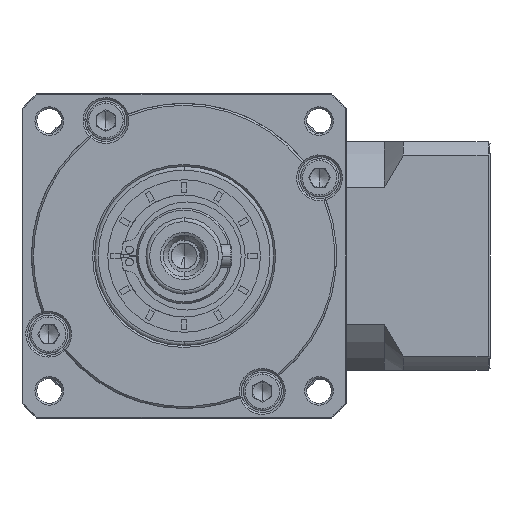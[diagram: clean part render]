
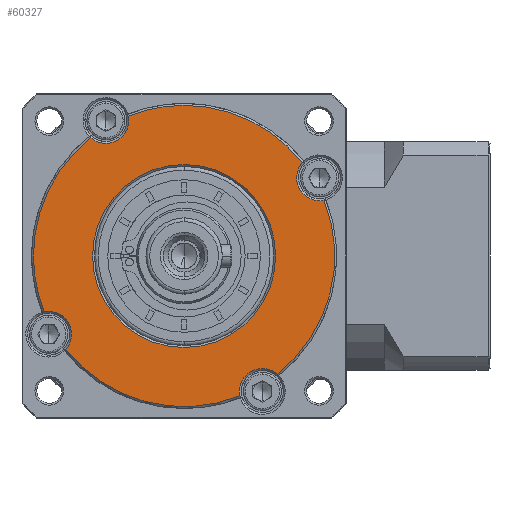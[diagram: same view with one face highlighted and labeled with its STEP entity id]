
A CAD part, left-side view. The second image highlights one B-rep face of the part: STEP entity #60327.
In plain terms, the highlighted planar face has unit normal (-1, 0, 0).
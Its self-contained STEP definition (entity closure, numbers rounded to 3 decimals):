
#143 = CARTESIAN_POINT ( 'NONE',  ( -85.36, 33.945, -122.89 ) ) ;
#965 = EDGE_CURVE ( 'NONE', #98661, #154533, #125995, .T. ) ;
#2797 = DIRECTION ( 'NONE',  ( 0., -1., 0. ) ) ;
#3060 = CIRCLE ( 'NONE', #39229, 6. ) ;
#3086 = DIRECTION ( 'NONE',  ( 0., 1., 0. ) ) ;
#3589 = DIRECTION ( 'NONE',  ( 0., 0., -1. ) ) ;
#6413 = CIRCLE ( 'NONE', #69718, 6. ) ;
#6884 = ORIENTED_EDGE ( 'NONE', *, *, #28684, .F. ) ;
#7111 = EDGE_CURVE ( 'NONE', #108349, #171684, #170310, .T. ) ;
#7172 = DIRECTION ( 'NONE',  ( 1., 0., 0. ) ) ;
#7188 = DIRECTION ( 'NONE',  ( 0., -1., 0. ) ) ;
#10012 = CARTESIAN_POINT ( 'NONE',  ( -85.36, 31.14, -137.508 ) ) ;
#16194 = CARTESIAN_POINT ( 'NONE',  ( -85.36, -41.062, -108.39 ) ) ;
#16691 = CIRCLE ( 'NONE', #72952, 6. ) ;
#22910 = CARTESIAN_POINT ( 'NONE',  ( -85.36, 29.952, -143.39 ) ) ;
#23169 = DIRECTION ( 'NONE',  ( 1., 0., 0. ) ) ;
#23332 = CIRCLE ( 'NONE', #107205, 39.5 ) ;
#25327 = EDGE_CURVE ( 'NONE', #74101, #129620, #172871, .T. ) ;
#26291 = CARTESIAN_POINT ( 'NONE',  ( -85.36, -41.062, -102.39 ) ) ;
#26826 = DIRECTION ( 'NONE',  ( 1., 0., 0. ) ) ;
#27199 = EDGE_CURVE ( 'NONE', #77246, #91178, #117964, .T. ) ;
#28684 = EDGE_CURVE ( 'NONE', #169901, #114938, #144117, .T. ) ;
#29023 = AXIS2_PLACEMENT_3D ( 'NONE', #26291, #119861, #39733 ) ;
#30211 = AXIS2_PLACEMENT_3D ( 'NONE', #162881, #82936, #2797 ) ;
#31896 = EDGE_CURVE ( 'NONE', #165293, #114938, #3060, .T. ) ;
#33157 = CARTESIAN_POINT ( 'NONE',  ( -85.36, -5.555, -122.89 ) ) ;
#33158 = EDGE_CURVE ( 'NONE', #154533, #51053, #6413, .T. ) ;
#33488 = ORIENTED_EDGE ( 'NONE', *, *, #119705, .F. ) ;
#36434 = DIRECTION ( 'NONE',  ( 0., 0., -1. ) ) ;
#36468 = AXIS2_PLACEMENT_3D ( 'NONE', #163167, #83246, #3086 ) ;
#36711 = CARTESIAN_POINT ( 'NONE',  ( -85.36, 14.945, -87.383 ) ) ;
#37875 = DIRECTION ( 'NONE',  ( 1., 0., 0. ) ) ;
#39229 = AXIS2_PLACEMENT_3D ( 'NONE', #163673, #83759, #3589 ) ;
#39339 = CARTESIAN_POINT ( 'NONE',  ( -85.36, -20.174, -159.585 ) ) ;
#39733 = DIRECTION ( 'NONE',  ( 0., 0., -1. ) ) ;
#41282 = VERTEX_POINT ( 'NONE', #39339 ) ;
#41883 = CIRCLE ( 'NONE', #30211, 24. ) ;
#42533 = CARTESIAN_POINT ( 'NONE',  ( -85.36, -29.555, -122.89 ) ) ;
#44127 = CARTESIAN_POINT ( 'NONE',  ( -85.36, 18.915, -91.882 ) ) ;
#44203 = FACE_OUTER_BOUND ( 'NONE', #102451, .T. ) ;
#45286 = CARTESIAN_POINT ( 'NONE',  ( -85.36, -26.055, -158.397 ) ) ;
#46582 = DIRECTION ( 'NONE',  ( 0., 1., 0. ) ) ;
#47852 = ORIENTED_EDGE ( 'NONE', *, *, #31896, .T. ) ;
#50204 = DIRECTION ( 'NONE',  ( 0., 0., -1. ) ) ;
#51053 = VERTEX_POINT ( 'NONE', #71967 ) ;
#55129 = AXIS2_PLACEMENT_3D ( 'NONE', #22910, #116500, #36434 ) ;
#56350 = CARTESIAN_POINT ( 'NONE',  ( -85.36, 14.945, -93.383 ) ) ;
#56401 = AXIS2_PLACEMENT_3D ( 'NONE', #68853, #162231, #82260 ) ;
#57676 = ORIENTED_EDGE ( 'NONE', *, *, #33158, .T. ) ;
#58783 = DIRECTION ( 'NONE',  ( 0., 0., -1. ) ) ;
#60327 = ADVANCED_FACE ( 'NONE', ( #44203, #146689 ), #95112, .T. ) ;
#61532 = AXIS2_PLACEMENT_3D ( 'NONE', #106883, #26826, #120376 ) ;
#64072 = CARTESIAN_POINT ( 'NONE',  ( -85.36, -42.25, -108.271 ) ) ;
#64786 = CARTESIAN_POINT ( 'NONE',  ( -85.36, 9.064, -86.194 ) ) ;
#65293 = EDGE_CURVE ( 'NONE', #41282, #156393, #113677, .T. ) ;
#68853 = CARTESIAN_POINT ( 'NONE',  ( -85.36, -5.555, -122.89 ) ) ;
#68905 = EDGE_CURVE ( 'NONE', #98661, #156393, #159468, .T. ) ;
#69718 = AXIS2_PLACEMENT_3D ( 'NONE', #87410, #7172, #100783 ) ;
#71398 = CARTESIAN_POINT ( 'NONE',  ( -85.36, -5.555, -122.89 ) ) ;
#71967 = CARTESIAN_POINT ( 'NONE',  ( -85.36, -36.563, -98.42 ) ) ;
#72952 = AXIS2_PLACEMENT_3D ( 'NONE', #36711, #130191, #50204 ) ;
#73541 = ORIENTED_EDGE ( 'NONE', *, *, #68905, .F. ) ;
#74101 = VERTEX_POINT ( 'NONE', #64786 ) ;
#76101 = AXIS2_PLACEMENT_3D ( 'NONE', #167350, #87434, #7188 ) ;
#77246 = VERTEX_POINT ( 'NONE', #10012 ) ;
#78243 = ORIENTED_EDGE ( 'NONE', *, *, #128346, .T. ) ;
#82260 = DIRECTION ( 'NONE',  ( 0., 0., -1. ) ) ;
#82936 = DIRECTION ( 'NONE',  ( 1., 0., 0. ) ) ;
#83246 = DIRECTION ( 'NONE',  ( 1., 0., 0. ) ) ;
#83759 = DIRECTION ( 'NONE',  ( 1., 0., 0. ) ) ;
#84861 = DIRECTION ( 'NONE',  ( 0., 0., 1. ) ) ;
#87410 = CARTESIAN_POINT ( 'NONE',  ( -85.36, -41.062, -102.39 ) ) ;
#87434 = DIRECTION ( 'NONE',  ( 1., 0., 0. ) ) ;
#91178 = VERTEX_POINT ( 'NONE', #93764 ) ;
#91595 = CARTESIAN_POINT ( 'NONE',  ( -85.36, -5.555, -83.39 ) ) ;
#92374 = AXIS2_PLACEMENT_3D ( 'NONE', #33157, #126653, #46582 ) ;
#93764 = CARTESIAN_POINT ( 'NONE',  ( -85.36, 25.453, -147.359 ) ) ;
#95112 = PLANE ( 'NONE',  #56401 ) ;
#96899 = CIRCLE ( 'NONE', #92374, 39.5 ) ;
#98661 = VERTEX_POINT ( 'NONE', #64072 ) ;
#99379 = AXIS2_PLACEMENT_3D ( 'NONE', #103264, #23169, #116756 ) ;
#100783 = DIRECTION ( 'NONE',  ( 0., 0., -1. ) ) ;
#102066 = ORIENTED_EDGE ( 'NONE', *, *, #7111, .T. ) ;
#102451 = EDGE_LOOP ( 'NONE', ( #135795, #148372, #47852, #6884, #33488, #128783, #147585, #125633, #73541, #147925, #57676, #108932 ) ) ;
#103264 = CARTESIAN_POINT ( 'NONE',  ( -85.36, -5.555, -122.89 ) ) ;
#106883 = CARTESIAN_POINT ( 'NONE',  ( -85.36, -5.555, -122.89 ) ) ;
#107205 = AXIS2_PLACEMENT_3D ( 'NONE', #71398, #164807, #84861 ) ;
#108349 = VERTEX_POINT ( 'NONE', #141064 ) ;
#108932 = ORIENTED_EDGE ( 'NONE', *, *, #151264, .F. ) ;
#113677 = CIRCLE ( 'NONE', #163480, 6. ) ;
#114257 = CARTESIAN_POINT ( 'NONE',  ( -85.36, -30.024, -153.897 ) ) ;
#114938 = VERTEX_POINT ( 'NONE', #44127 ) ;
#116500 = DIRECTION ( 'NONE',  ( 1., 0., 0. ) ) ;
#116756 = DIRECTION ( 'NONE',  ( 0., 0., 1. ) ) ;
#117344 = EDGE_CURVE ( 'NONE', #74101, #165293, #16691, .T. ) ;
#117964 = CIRCLE ( 'NONE', #55129, 6. ) ;
#117968 = CARTESIAN_POINT ( 'NONE',  ( -85.36, -5.555, -122.89 ) ) ;
#119705 = EDGE_CURVE ( 'NONE', #77246, #169901, #96899, .T. ) ;
#119861 = DIRECTION ( 'NONE',  ( 1., 0., 0. ) ) ;
#120376 = DIRECTION ( 'NONE',  ( 0., 0., 1. ) ) ;
#125633 = ORIENTED_EDGE ( 'NONE', *, *, #65293, .T. ) ;
#125913 = CIRCLE ( 'NONE', #148460, 39.5 ) ;
#125995 = CIRCLE ( 'NONE', #29023, 6. ) ;
#126653 = DIRECTION ( 'NONE',  ( 1., 0., 0. ) ) ;
#128346 = EDGE_CURVE ( 'NONE', #171684, #108349, #41883, .T. ) ;
#128783 = ORIENTED_EDGE ( 'NONE', *, *, #27199, .T. ) ;
#129620 = VERTEX_POINT ( 'NONE', #91595 ) ;
#130191 = DIRECTION ( 'NONE',  ( 1., 0., 0. ) ) ;
#131372 = DIRECTION ( 'NONE',  ( 0., 0., 1. ) ) ;
#135795 = ORIENTED_EDGE ( 'NONE', *, *, #25327, .F. ) ;
#138059 = EDGE_CURVE ( 'NONE', #41282, #91178, #125913, .T. ) ;
#138844 = DIRECTION ( 'NONE',  ( 1., 0., 0. ) ) ;
#141064 = CARTESIAN_POINT ( 'NONE',  ( -85.36, 18.445, -122.89 ) ) ;
#144117 = CIRCLE ( 'NONE', #36468, 39.5 ) ;
#145227 = EDGE_LOOP ( 'NONE', ( #78243, #102066 ) ) ;
#146689 = FACE_BOUND ( 'NONE', #145227, .T. ) ;
#147585 = ORIENTED_EDGE ( 'NONE', *, *, #138059, .F. ) ;
#147925 = ORIENTED_EDGE ( 'NONE', *, *, #965, .T. ) ;
#148372 = ORIENTED_EDGE ( 'NONE', *, *, #117344, .T. ) ;
#148460 = AXIS2_PLACEMENT_3D ( 'NONE', #117968, #37875, #131372 ) ;
#151264 = EDGE_CURVE ( 'NONE', #129620, #51053, #23332, .T. ) ;
#154533 = VERTEX_POINT ( 'NONE', #16194 ) ;
#156393 = VERTEX_POINT ( 'NONE', #114257 ) ;
#159468 = CIRCLE ( 'NONE', #99379, 39.5 ) ;
#162231 = DIRECTION ( 'NONE',  ( -1., 0., 0. ) ) ;
#162881 = CARTESIAN_POINT ( 'NONE',  ( -85.36, -5.555, -122.89 ) ) ;
#163167 = CARTESIAN_POINT ( 'NONE',  ( -85.36, -5.555, -122.89 ) ) ;
#163480 = AXIS2_PLACEMENT_3D ( 'NONE', #45286, #138844, #58783 ) ;
#163673 = CARTESIAN_POINT ( 'NONE',  ( -85.36, 14.945, -87.383 ) ) ;
#164807 = DIRECTION ( 'NONE',  ( 1., 0., 0. ) ) ;
#165293 = VERTEX_POINT ( 'NONE', #56350 ) ;
#167350 = CARTESIAN_POINT ( 'NONE',  ( -85.36, -5.555, -122.89 ) ) ;
#169901 = VERTEX_POINT ( 'NONE', #143 ) ;
#170310 = CIRCLE ( 'NONE', #76101, 24. ) ;
#171684 = VERTEX_POINT ( 'NONE', #42533 ) ;
#172871 = CIRCLE ( 'NONE', #61532, 39.5 ) ;
